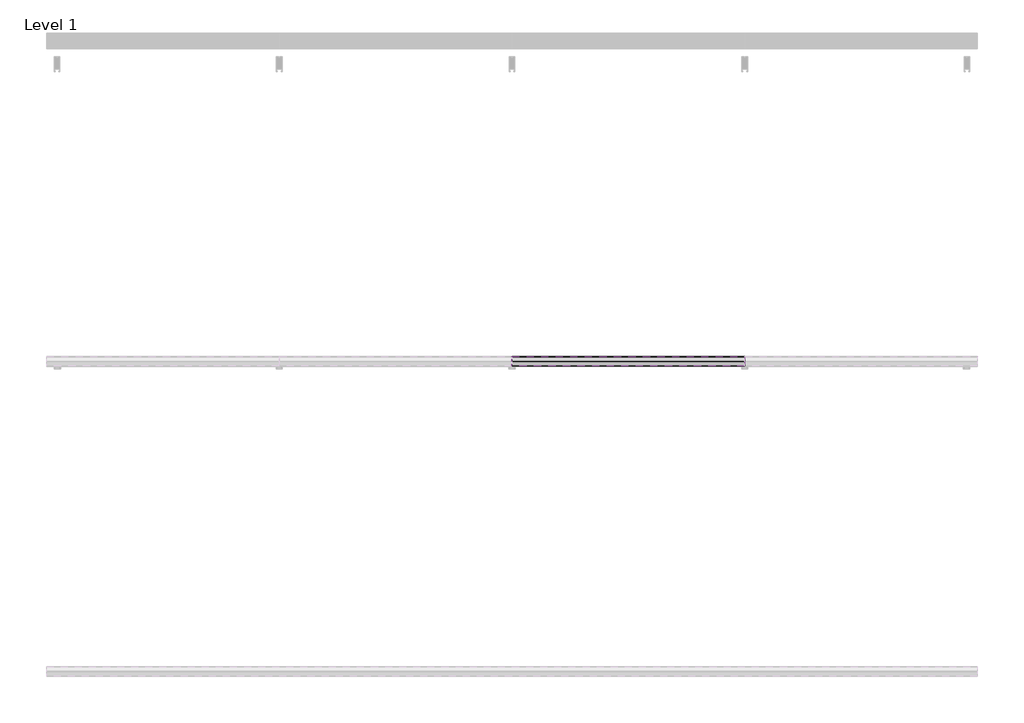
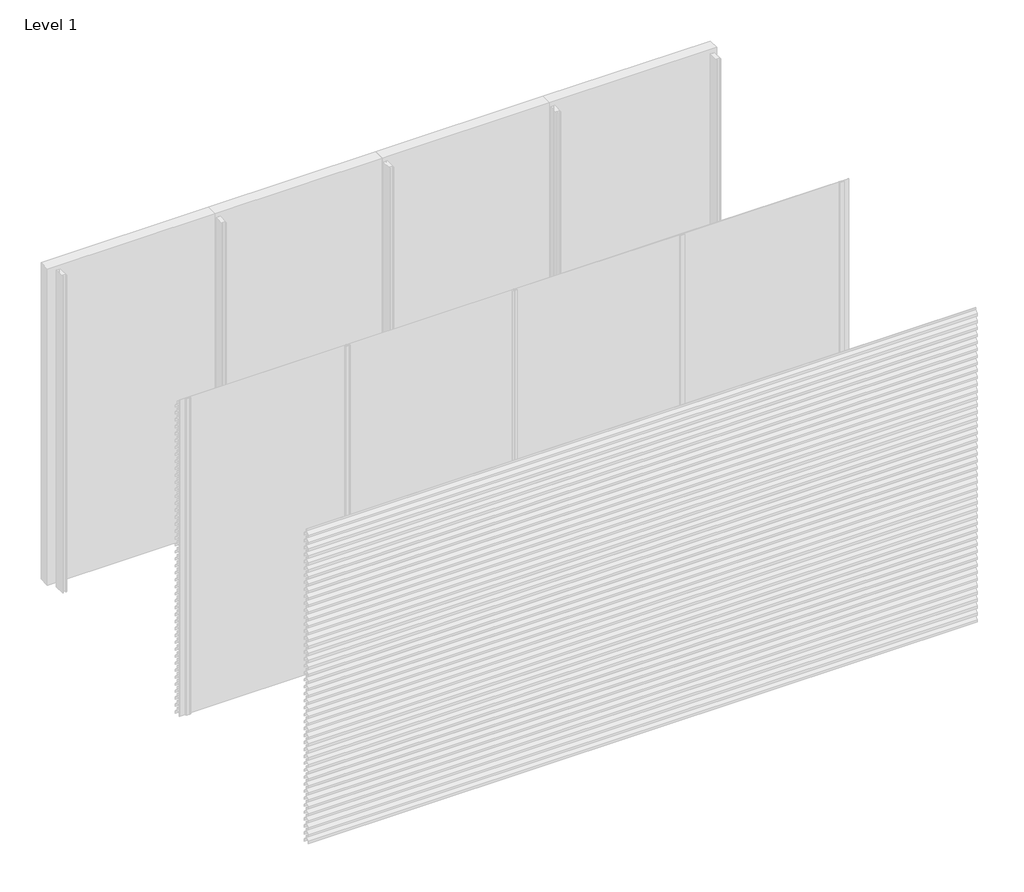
# One storey, part 21 of 35: 69 proxies.
"""IFC4 building model written with IfcOpenShell, lengths in millimetres."""

from ifc_helpers import new_model, si_unit, frame, origin, place, context, project, spatial, polyline, outline, extrude, element, save

model = new_model("IFC4")

# Units and contexts
model_context = context("Model", 3, world=origin())
ifc_project = project(units=[si_unit("LENGTHUNIT", "METRE", prefix="MILLI")], contexts=[model_context])

# Site, building, storey
site = spatial("IfcSite", under=ifc_project)
building = spatial("IfcBuilding", under=site)
storey = spatial("IfcBuildingStorey", under=building, Name="Level 1", Elevation=0.0)

# Proxies
placement = place(None, origin())
element("IfcBuildingElementProxy", 1, Name="Wall Sweeps", at=placement, inside=storey, context=model_context, shape_type="SweptSolid", body=[
    extrude(outline(polyline([(-23936.0, 12.0), (-23936.0, -8.0), (-23937.25, -8.0), (-23937.25, 11.4342979), (-23968.1138939, 44.531772), (-23996.7, 24.4392868), (-23996.7, 5.6629874), (-23998.0, 4.8506572), (-23998.0, 25.1145472), (-23968.537525, 45.823011), (-23968.537525, 66.0), (-23967.1772624, 66.0), (-23967.1772624, 45.4335207), (-23936.0, 12.0)])), frame((1500.0, 0.0, 0.0), z_axis=(1.0, 0.0, 0.0), x_axis=(0.0, 1.0, 0.0)), (0.0, 0.0, 1.0), 1500.0),
])
element("IfcBuildingElementProxy", 2, Name="Wall Sweeps", at=placement, inside=storey, context=model_context, shape_type="SweptSolid", body=[
    extrude(outline(polyline([(-23936.0, 2916.0), (-23936.0, 2896.0), (-23937.25, 2896.0), (-23937.25, 2915.4342979), (-23968.1138939, 2948.531772), (-23996.7, 2928.4392868), (-23996.7, 2909.6629874), (-23998.0, 2908.8506572), (-23998.0, 2929.1145472), (-23968.537525, 2949.823011), (-23968.537525, 2970.0), (-23967.1772624, 2970.0), (-23967.1772624, 2949.4335207), (-23936.0, 2916.0)])), frame((3000.0, 0.0, 0.0), z_axis=(1.0, 0.0, 0.0), x_axis=(0.0, 1.0, 0.0)), (0.0, 0.0, 1.0), 1500.0),
])
element("IfcBuildingElementProxy", 3, Name="Wall Sweeps", at=placement, inside=storey, context=model_context, shape_type="SweptSolid", body=[
    extrude(outline(polyline([(-23936.0, 2850.0), (-23936.0, 2830.0), (-23937.25, 2830.0), (-23937.25, 2849.4342979), (-23968.1138939, 2882.531772), (-23996.7, 2862.4392868), (-23996.7, 2843.6629874), (-23998.0, 2842.8506572), (-23998.0, 2863.1145472), (-23968.537525, 2883.823011), (-23968.537525, 2904.0), (-23967.1772624, 2904.0), (-23967.1772624, 2883.4335207), (-23936.0, 2850.0)])), frame((3000.0, 0.0, 0.0), z_axis=(1.0, 0.0, 0.0), x_axis=(0.0, 1.0, 0.0)), (0.0, 0.0, 1.0), 1500.0),
])
element("IfcBuildingElementProxy", 4, Name="Wall Sweeps", at=placement, inside=storey, context=model_context, shape_type="SweptSolid", body=[
    extrude(outline(polyline([(-23936.0, 2784.0), (-23936.0, 2764.0), (-23937.25, 2764.0), (-23937.25, 2783.4342979), (-23968.1138939, 2816.531772), (-23996.7, 2796.4392868), (-23996.7, 2777.6629874), (-23998.0, 2776.8506572), (-23998.0, 2797.1145472), (-23968.537525, 2817.823011), (-23968.537525, 2838.0), (-23967.1772624, 2838.0), (-23967.1772624, 2817.4335207), (-23936.0, 2784.0)])), frame((3000.0, 0.0, 0.0), z_axis=(1.0, 0.0, 0.0), x_axis=(0.0, 1.0, 0.0)), (0.0, 0.0, 1.0), 1500.0),
])
element("IfcBuildingElementProxy", 5, Name="Wall Sweeps", at=placement, inside=storey, context=model_context, shape_type="SweptSolid", body=[
    extrude(outline(polyline([(-23936.0, 2718.0), (-23936.0, 2698.0), (-23937.25, 2698.0), (-23937.25, 2717.4342979), (-23968.1138939, 2750.531772), (-23996.7, 2730.4392868), (-23996.7, 2711.6629874), (-23998.0, 2710.8506572), (-23998.0, 2731.1145472), (-23968.537525, 2751.823011), (-23968.537525, 2772.0), (-23967.1772624, 2772.0), (-23967.1772624, 2751.4335207), (-23936.0, 2718.0)])), frame((3000.0, 0.0, 0.0), z_axis=(1.0, 0.0, 0.0), x_axis=(0.0, 1.0, 0.0)), (0.0, 0.0, 1.0), 1500.0),
])
element("IfcBuildingElementProxy", 6, Name="Wall Sweeps", at=placement, inside=storey, context=model_context, shape_type="SweptSolid", body=[
    extrude(outline(polyline([(-23936.0, 2652.0), (-23936.0, 2632.0), (-23937.25, 2632.0), (-23937.25, 2651.4342979), (-23968.1138939, 2684.531772), (-23996.7, 2664.4392868), (-23996.7, 2645.6629874), (-23998.0, 2644.8506572), (-23998.0, 2665.1145472), (-23968.537525, 2685.823011), (-23968.537525, 2706.0), (-23967.1772624, 2706.0), (-23967.1772624, 2685.4335207), (-23936.0, 2652.0)])), frame((3000.0, 0.0, 0.0), z_axis=(1.0, 0.0, 0.0), x_axis=(0.0, 1.0, 0.0)), (0.0, 0.0, 1.0), 1500.0),
])
element("IfcBuildingElementProxy", 7, Name="Wall Sweeps", at=placement, inside=storey, context=model_context, shape_type="SweptSolid", body=[
    extrude(outline(polyline([(-23936.0, 2586.0), (-23936.0, 2566.0), (-23937.25, 2566.0), (-23937.25, 2585.4342979), (-23968.1138939, 2618.531772), (-23996.7, 2598.4392868), (-23996.7, 2579.6629874), (-23998.0, 2578.8506572), (-23998.0, 2599.1145472), (-23968.537525, 2619.823011), (-23968.537525, 2640.0), (-23967.1772624, 2640.0), (-23967.1772624, 2619.4335207), (-23936.0, 2586.0)])), frame((3000.0, 0.0, 0.0), z_axis=(1.0, 0.0, 0.0), x_axis=(0.0, 1.0, 0.0)), (0.0, 0.0, 1.0), 1500.0),
])
element("IfcBuildingElementProxy", 8, Name="Wall Sweeps", at=placement, inside=storey, context=model_context, shape_type="SweptSolid", body=[
    extrude(outline(polyline([(-23936.0, 2520.0), (-23936.0, 2500.0), (-23937.25, 2500.0), (-23937.25, 2519.4342979), (-23968.1138939, 2552.531772), (-23996.7, 2532.4392868), (-23996.7, 2513.6629874), (-23998.0, 2512.8506572), (-23998.0, 2533.1145472), (-23968.537525, 2553.823011), (-23968.537525, 2574.0), (-23967.1772624, 2574.0), (-23967.1772624, 2553.4335207), (-23936.0, 2520.0)])), frame((3000.0, 0.0, 0.0), z_axis=(1.0, 0.0, 0.0), x_axis=(0.0, 1.0, 0.0)), (0.0, 0.0, 1.0), 1500.0),
])
element("IfcBuildingElementProxy", 9, Name="Wall Sweeps", at=placement, inside=storey, context=model_context, shape_type="SweptSolid", body=[
    extrude(outline(polyline([(-23936.0, 2454.0), (-23936.0, 2434.0), (-23937.25, 2434.0), (-23937.25, 2453.4342979), (-23968.1138939, 2486.531772), (-23996.7, 2466.4392868), (-23996.7, 2447.6629874), (-23998.0, 2446.8506572), (-23998.0, 2467.1145472), (-23968.537525, 2487.823011), (-23968.537525, 2508.0), (-23967.1772624, 2508.0), (-23967.1772624, 2487.4335207), (-23936.0, 2454.0)])), frame((3000.0, 0.0, 0.0), z_axis=(1.0, 0.0, 0.0), x_axis=(0.0, 1.0, 0.0)), (0.0, 0.0, 1.0), 1500.0),
])
element("IfcBuildingElementProxy", 10, Name="Wall Sweeps", at=placement, inside=storey, context=model_context, shape_type="SweptSolid", body=[
    extrude(outline(polyline([(-23936.0, 2388.0), (-23936.0, 2368.0), (-23937.25, 2368.0), (-23937.25, 2387.4342979), (-23968.1138939, 2420.531772), (-23996.7, 2400.4392868), (-23996.7, 2381.6629874), (-23998.0, 2380.8506572), (-23998.0, 2401.1145472), (-23968.537525, 2421.823011), (-23968.537525, 2442.0), (-23967.1772624, 2442.0), (-23967.1772624, 2421.4335207), (-23936.0, 2388.0)])), frame((3000.0, 0.0, 0.0), z_axis=(1.0, 0.0, 0.0), x_axis=(0.0, 1.0, 0.0)), (0.0, 0.0, 1.0), 1500.0),
])
element("IfcBuildingElementProxy", 11, Name="Wall Sweeps", at=placement, inside=storey, context=model_context, shape_type="SweptSolid", body=[
    extrude(outline(polyline([(-23936.0, 2322.0), (-23936.0, 2302.0), (-23937.25, 2302.0), (-23937.25, 2321.4342979), (-23968.1138939, 2354.531772), (-23996.7, 2334.4392868), (-23996.7, 2315.6629874), (-23998.0, 2314.8506572), (-23998.0, 2335.1145472), (-23968.537525, 2355.823011), (-23968.537525, 2376.0), (-23967.1772624, 2376.0), (-23967.1772624, 2355.4335207), (-23936.0, 2322.0)])), frame((3000.0, 0.0, 0.0), z_axis=(1.0, 0.0, 0.0), x_axis=(0.0, 1.0, 0.0)), (0.0, 0.0, 1.0), 1500.0),
])
element("IfcBuildingElementProxy", 12, Name="Wall Sweeps", at=placement, inside=storey, context=model_context, shape_type="SweptSolid", body=[
    extrude(outline(polyline([(-23936.0, 2256.0), (-23936.0, 2236.0), (-23937.25, 2236.0), (-23937.25, 2255.4342979), (-23968.1138939, 2288.531772), (-23996.7, 2268.4392868), (-23996.7, 2249.6629874), (-23998.0, 2248.8506572), (-23998.0, 2269.1145472), (-23968.537525, 2289.823011), (-23968.537525, 2310.0), (-23967.1772624, 2310.0), (-23967.1772624, 2289.4335207), (-23936.0, 2256.0)])), frame((3000.0, 0.0, 0.0), z_axis=(1.0, 0.0, 0.0), x_axis=(0.0, 1.0, 0.0)), (0.0, 0.0, 1.0), 1500.0),
])
element("IfcBuildingElementProxy", 13, Name="Wall Sweeps", at=placement, inside=storey, context=model_context, shape_type="SweptSolid", body=[
    extrude(outline(polyline([(-23936.0, 2190.0), (-23936.0, 2170.0), (-23937.25, 2170.0), (-23937.25, 2189.4342979), (-23968.1138939, 2222.531772), (-23996.7, 2202.4392868), (-23996.7, 2183.6629874), (-23998.0, 2182.8506572), (-23998.0, 2203.1145472), (-23968.537525, 2223.823011), (-23968.537525, 2244.0), (-23967.1772624, 2244.0), (-23967.1772624, 2223.4335207), (-23936.0, 2190.0)])), frame((3000.0, 0.0, 0.0), z_axis=(1.0, 0.0, 0.0), x_axis=(0.0, 1.0, 0.0)), (0.0, 0.0, 1.0), 1500.0),
])
element("IfcBuildingElementProxy", 14, Name="Wall Sweeps", at=placement, inside=storey, context=model_context, shape_type="SweptSolid", body=[
    extrude(outline(polyline([(-23936.0, 2124.0), (-23936.0, 2104.0), (-23937.25, 2104.0), (-23937.25, 2123.4342979), (-23968.1138939, 2156.531772), (-23996.7, 2136.4392868), (-23996.7, 2117.6629874), (-23998.0, 2116.8506572), (-23998.0, 2137.1145472), (-23968.537525, 2157.823011), (-23968.537525, 2178.0), (-23967.1772624, 2178.0), (-23967.1772624, 2157.4335207), (-23936.0, 2124.0)])), frame((3000.0, 0.0, 0.0), z_axis=(1.0, 0.0, 0.0), x_axis=(0.0, 1.0, 0.0)), (0.0, 0.0, 1.0), 1500.0),
])
element("IfcBuildingElementProxy", 15, Name="Wall Sweeps", at=placement, inside=storey, context=model_context, shape_type="SweptSolid", body=[
    extrude(outline(polyline([(-23936.0, 2058.0), (-23936.0, 2038.0), (-23937.25, 2038.0), (-23937.25, 2057.4342979), (-23968.1138939, 2090.531772), (-23996.7, 2070.4392868), (-23996.7, 2051.6629874), (-23998.0, 2050.8506572), (-23998.0, 2071.1145472), (-23968.537525, 2091.823011), (-23968.537525, 2112.0), (-23967.1772624, 2112.0), (-23967.1772624, 2091.4335207), (-23936.0, 2058.0)])), frame((3000.0, 0.0, 0.0), z_axis=(1.0, 0.0, 0.0), x_axis=(0.0, 1.0, 0.0)), (0.0, 0.0, 1.0), 1500.0),
])
element("IfcBuildingElementProxy", 16, Name="Wall Sweeps", at=placement, inside=storey, context=model_context, shape_type="SweptSolid", body=[
    extrude(outline(polyline([(-23936.0, 1992.0), (-23936.0, 1972.0), (-23937.25, 1972.0), (-23937.25, 1991.4342979), (-23968.1138939, 2024.531772), (-23996.7, 2004.4392868), (-23996.7, 1985.6629874), (-23998.0, 1984.8506572), (-23998.0, 2005.1145472), (-23968.537525, 2025.823011), (-23968.537525, 2046.0), (-23967.1772624, 2046.0), (-23967.1772624, 2025.4335207), (-23936.0, 1992.0)])), frame((3000.0, 0.0, 0.0), z_axis=(1.0, 0.0, 0.0), x_axis=(0.0, 1.0, 0.0)), (0.0, 0.0, 1.0), 1500.0),
])
element("IfcBuildingElementProxy", 17, Name="Wall Sweeps", at=placement, inside=storey, context=model_context, shape_type="SweptSolid", body=[
    extrude(outline(polyline([(-23936.0, 1926.0), (-23936.0, 1906.0), (-23937.25, 1906.0), (-23937.25, 1925.4342979), (-23968.1138939, 1958.531772), (-23996.7, 1938.4392868), (-23996.7, 1919.6629874), (-23998.0, 1918.8506572), (-23998.0, 1939.1145472), (-23968.537525, 1959.823011), (-23968.537525, 1980.0), (-23967.1772624, 1980.0), (-23967.1772624, 1959.4335207), (-23936.0, 1926.0)])), frame((3000.0, 0.0, 0.0), z_axis=(1.0, 0.0, 0.0), x_axis=(0.0, 1.0, 0.0)), (0.0, 0.0, 1.0), 1500.0),
])
element("IfcBuildingElementProxy", 18, Name="Wall Sweeps", at=placement, inside=storey, context=model_context, shape_type="SweptSolid", body=[
    extrude(outline(polyline([(-23936.0, 1860.0), (-23936.0, 1840.0), (-23937.25, 1840.0), (-23937.25, 1859.4342979), (-23968.1138939, 1892.531772), (-23996.7, 1872.4392868), (-23996.7, 1853.6629874), (-23998.0, 1852.8506572), (-23998.0, 1873.1145472), (-23968.537525, 1893.823011), (-23968.537525, 1914.0), (-23967.1772624, 1914.0), (-23967.1772624, 1893.4335207), (-23936.0, 1860.0)])), frame((3000.0, 0.0, 0.0), z_axis=(1.0, 0.0, 0.0), x_axis=(0.0, 1.0, 0.0)), (0.0, 0.0, 1.0), 1500.0),
])
element("IfcBuildingElementProxy", 19, Name="Wall Sweeps", at=placement, inside=storey, context=model_context, shape_type="SweptSolid", body=[
    extrude(outline(polyline([(-23936.0, 1794.0), (-23936.0, 1774.0), (-23937.25, 1774.0), (-23937.25, 1793.4342979), (-23968.1138939, 1826.531772), (-23996.7, 1806.4392868), (-23996.7, 1787.6629874), (-23998.0, 1786.8506572), (-23998.0, 1807.1145472), (-23968.537525, 1827.823011), (-23968.537525, 1848.0), (-23967.1772624, 1848.0), (-23967.1772624, 1827.4335207), (-23936.0, 1794.0)])), frame((3000.0, 0.0, 0.0), z_axis=(1.0, 0.0, 0.0), x_axis=(0.0, 1.0, 0.0)), (0.0, 0.0, 1.0), 1500.0),
])
element("IfcBuildingElementProxy", 20, Name="Wall Sweeps", at=placement, inside=storey, context=model_context, shape_type="SweptSolid", body=[
    extrude(outline(polyline([(-23936.0, 1728.0), (-23936.0, 1708.0), (-23937.25, 1708.0), (-23937.25, 1727.4342979), (-23968.1138939, 1760.531772), (-23996.7, 1740.4392868), (-23996.7, 1721.6629874), (-23998.0, 1720.8506572), (-23998.0, 1741.1145472), (-23968.537525, 1761.823011), (-23968.537525, 1782.0), (-23967.1772624, 1782.0), (-23967.1772624, 1761.4335207), (-23936.0, 1728.0)])), frame((3000.0, 0.0, 0.0), z_axis=(1.0, 0.0, 0.0), x_axis=(0.0, 1.0, 0.0)), (0.0, 0.0, 1.0), 1500.0),
])
element("IfcBuildingElementProxy", 21, Name="Wall Sweeps", at=placement, inside=storey, context=model_context, shape_type="SweptSolid", body=[
    extrude(outline(polyline([(-23936.0, 1662.0), (-23936.0, 1642.0), (-23937.25, 1642.0), (-23937.25, 1661.4342979), (-23968.1138939, 1694.531772), (-23996.7, 1674.4392868), (-23996.7, 1655.6629874), (-23998.0, 1654.8506572), (-23998.0, 1675.1145472), (-23968.537525, 1695.823011), (-23968.537525, 1716.0), (-23967.1772624, 1716.0), (-23967.1772624, 1695.4335207), (-23936.0, 1662.0)])), frame((3000.0, 0.0, 0.0), z_axis=(1.0, 0.0, 0.0), x_axis=(0.0, 1.0, 0.0)), (0.0, 0.0, 1.0), 1500.0),
])
element("IfcBuildingElementProxy", 22, Name="Wall Sweeps", at=placement, inside=storey, context=model_context, shape_type="SweptSolid", body=[
    extrude(outline(polyline([(-23936.0, 1596.0), (-23936.0, 1576.0), (-23937.25, 1576.0), (-23937.25, 1595.4342979), (-23968.1138939, 1628.531772), (-23996.7, 1608.4392868), (-23996.7, 1589.6629874), (-23998.0, 1588.8506572), (-23998.0, 1609.1145472), (-23968.537525, 1629.823011), (-23968.537525, 1650.0), (-23967.1772624, 1650.0), (-23967.1772624, 1629.4335207), (-23936.0, 1596.0)])), frame((3000.0, 0.0, 0.0), z_axis=(1.0, 0.0, 0.0), x_axis=(0.0, 1.0, 0.0)), (0.0, 0.0, 1.0), 1500.0),
])
element("IfcBuildingElementProxy", 23, Name="Wall Sweeps", at=placement, inside=storey, context=model_context, shape_type="SweptSolid", body=[
    extrude(outline(polyline([(-23936.0, 1530.0), (-23936.0, 1510.0), (-23937.25, 1510.0), (-23937.25, 1529.4342979), (-23968.1138939, 1562.531772), (-23996.7, 1542.4392868), (-23996.7, 1523.6629874), (-23998.0, 1522.8506572), (-23998.0, 1543.1145472), (-23968.537525, 1563.823011), (-23968.537525, 1584.0), (-23967.1772624, 1584.0), (-23967.1772624, 1563.4335207), (-23936.0, 1530.0)])), frame((3000.0, 0.0, 0.0), z_axis=(1.0, 0.0, 0.0), x_axis=(0.0, 1.0, 0.0)), (0.0, 0.0, 1.0), 1500.0),
])
element("IfcBuildingElementProxy", 24, Name="Wall Sweeps", at=placement, inside=storey, context=model_context, shape_type="SweptSolid", body=[
    extrude(outline(polyline([(-23936.0, 1464.0), (-23936.0, 1444.0), (-23937.25, 1444.0), (-23937.25, 1463.4342979), (-23968.1138939, 1496.531772), (-23996.7, 1476.4392868), (-23996.7, 1457.6629874), (-23998.0, 1456.8506572), (-23998.0, 1477.1145472), (-23968.537525, 1497.823011), (-23968.537525, 1518.0), (-23967.1772624, 1518.0), (-23967.1772624, 1497.4335207), (-23936.0, 1464.0)])), frame((3000.0, 0.0, 0.0), z_axis=(1.0, 0.0, 0.0), x_axis=(0.0, 1.0, 0.0)), (0.0, 0.0, 1.0), 1500.0),
])
element("IfcBuildingElementProxy", 25, Name="Wall Sweeps", at=placement, inside=storey, context=model_context, shape_type="SweptSolid", body=[
    extrude(outline(polyline([(-23936.0, 1398.0), (-23936.0, 1378.0), (-23937.25, 1378.0), (-23937.25, 1397.4342979), (-23968.1138939, 1430.531772), (-23996.7, 1410.4392868), (-23996.7, 1391.6629874), (-23998.0, 1390.8506572), (-23998.0, 1411.1145472), (-23968.537525, 1431.823011), (-23968.537525, 1452.0), (-23967.1772624, 1452.0), (-23967.1772624, 1431.4335207), (-23936.0, 1398.0)])), frame((3000.0, 0.0, 0.0), z_axis=(1.0, 0.0, 0.0), x_axis=(0.0, 1.0, 0.0)), (0.0, 0.0, 1.0), 1500.0),
])
element("IfcBuildingElementProxy", 26, Name="Wall Sweeps", at=placement, inside=storey, context=model_context, shape_type="SweptSolid", body=[
    extrude(outline(polyline([(-23936.0, 1332.0), (-23936.0, 1312.0), (-23937.25, 1312.0), (-23937.25, 1331.4342979), (-23968.1138939, 1364.531772), (-23996.7, 1344.4392868), (-23996.7, 1325.6629874), (-23998.0, 1324.8506572), (-23998.0, 1345.1145472), (-23968.537525, 1365.823011), (-23968.537525, 1386.0), (-23967.1772624, 1386.0), (-23967.1772624, 1365.4335207), (-23936.0, 1332.0)])), frame((3000.0, 0.0, 0.0), z_axis=(1.0, 0.0, 0.0), x_axis=(0.0, 1.0, 0.0)), (0.0, 0.0, 1.0), 1500.0),
])
element("IfcBuildingElementProxy", 27, Name="Wall Sweeps", at=placement, inside=storey, context=model_context, shape_type="SweptSolid", body=[
    extrude(outline(polyline([(-23936.0, 1266.0), (-23936.0, 1246.0), (-23937.25, 1246.0), (-23937.25, 1265.4342979), (-23968.1138939, 1298.531772), (-23996.7, 1278.4392868), (-23996.7, 1259.6629874), (-23998.0, 1258.8506572), (-23998.0, 1279.1145472), (-23968.537525, 1299.823011), (-23968.537525, 1320.0), (-23967.1772624, 1320.0), (-23967.1772624, 1299.4335207), (-23936.0, 1266.0)])), frame((3000.0, 0.0, 0.0), z_axis=(1.0, 0.0, 0.0), x_axis=(0.0, 1.0, 0.0)), (0.0, 0.0, 1.0), 1500.0),
])
element("IfcBuildingElementProxy", 28, Name="Wall Sweeps", at=placement, inside=storey, context=model_context, shape_type="SweptSolid", body=[
    extrude(outline(polyline([(-23936.0, 1200.0), (-23936.0, 1180.0), (-23937.25, 1180.0), (-23937.25, 1199.4342979), (-23968.1138939, 1232.531772), (-23996.7, 1212.4392868), (-23996.7, 1193.6629874), (-23998.0, 1192.8506572), (-23998.0, 1213.1145472), (-23968.537525, 1233.823011), (-23968.537525, 1254.0), (-23967.1772624, 1254.0), (-23967.1772624, 1233.4335207), (-23936.0, 1200.0)])), frame((3000.0, 0.0, 0.0), z_axis=(1.0, 0.0, 0.0), x_axis=(0.0, 1.0, 0.0)), (0.0, 0.0, 1.0), 1500.0),
])
element("IfcBuildingElementProxy", 29, Name="Wall Sweeps", at=placement, inside=storey, context=model_context, shape_type="SweptSolid", body=[
    extrude(outline(polyline([(-23936.0, 1134.0), (-23936.0, 1114.0), (-23937.25, 1114.0), (-23937.25, 1133.4342979), (-23968.1138939, 1166.531772), (-23996.7, 1146.4392868), (-23996.7, 1127.6629874), (-23998.0, 1126.8506572), (-23998.0, 1147.1145472), (-23968.537525, 1167.823011), (-23968.537525, 1188.0), (-23967.1772624, 1188.0), (-23967.1772624, 1167.4335207), (-23936.0, 1134.0)])), frame((3000.0, 0.0, 0.0), z_axis=(1.0, 0.0, 0.0), x_axis=(0.0, 1.0, 0.0)), (0.0, 0.0, 1.0), 1500.0),
])
element("IfcBuildingElementProxy", 30, Name="Wall Sweeps", at=placement, inside=storey, context=model_context, shape_type="SweptSolid", body=[
    extrude(outline(polyline([(-23936.0, 1068.0), (-23936.0, 1048.0), (-23937.25, 1048.0), (-23937.25, 1067.4342979), (-23968.1138939, 1100.531772), (-23996.7, 1080.4392868), (-23996.7, 1061.6629874), (-23998.0, 1060.8506572), (-23998.0, 1081.1145472), (-23968.537525, 1101.823011), (-23968.537525, 1122.0), (-23967.1772624, 1122.0), (-23967.1772624, 1101.4335207), (-23936.0, 1068.0)])), frame((3000.0, 0.0, 0.0), z_axis=(1.0, 0.0, 0.0), x_axis=(0.0, 1.0, 0.0)), (0.0, 0.0, 1.0), 1500.0),
])
element("IfcBuildingElementProxy", 31, Name="Wall Sweeps", at=placement, inside=storey, context=model_context, shape_type="SweptSolid", body=[
    extrude(outline(polyline([(-23936.0, 1002.0), (-23936.0, 982.0), (-23937.25, 982.0), (-23937.25, 1001.4342979), (-23968.1138939, 1034.531772), (-23996.7, 1014.4392868), (-23996.7, 995.6629874), (-23998.0, 994.8506572), (-23998.0, 1015.1145472), (-23968.537525, 1035.823011), (-23968.537525, 1056.0), (-23967.1772624, 1056.0), (-23967.1772624, 1035.4335207), (-23936.0, 1002.0)])), frame((3000.0, 0.0, 0.0), z_axis=(1.0, 0.0, 0.0), x_axis=(0.0, 1.0, 0.0)), (0.0, 0.0, 1.0), 1500.0),
])
element("IfcBuildingElementProxy", 32, Name="Wall Sweeps", at=placement, inside=storey, context=model_context, shape_type="SweptSolid", body=[
    extrude(outline(polyline([(-23936.0, 936.0), (-23936.0, 916.0), (-23937.25, 916.0), (-23937.25, 935.4342979), (-23968.1138939, 968.531772), (-23996.7, 948.4392868), (-23996.7, 929.6629874), (-23998.0, 928.8506572), (-23998.0, 949.1145472), (-23968.537525, 969.823011), (-23968.537525, 990.0), (-23967.1772624, 990.0), (-23967.1772624, 969.4335207), (-23936.0, 936.0)])), frame((3000.0, 0.0, 0.0), z_axis=(1.0, 0.0, 0.0), x_axis=(0.0, 1.0, 0.0)), (0.0, 0.0, 1.0), 1500.0),
])
element("IfcBuildingElementProxy", 33, Name="Wall Sweeps", at=placement, inside=storey, context=model_context, shape_type="SweptSolid", body=[
    extrude(outline(polyline([(-23936.0, 870.0), (-23936.0, 850.0), (-23937.25, 850.0), (-23937.25, 869.4342979), (-23968.1138939, 902.531772), (-23996.7, 882.4392868), (-23996.7, 863.6629874), (-23998.0, 862.8506572), (-23998.0, 883.1145472), (-23968.537525, 903.823011), (-23968.537525, 924.0), (-23967.1772624, 924.0), (-23967.1772624, 903.4335207), (-23936.0, 870.0)])), frame((3000.0, 0.0, 0.0), z_axis=(1.0, 0.0, 0.0), x_axis=(0.0, 1.0, 0.0)), (0.0, 0.0, 1.0), 1500.0),
])
element("IfcBuildingElementProxy", 34, Name="Wall Sweeps", at=placement, inside=storey, context=model_context, shape_type="SweptSolid", body=[
    extrude(outline(polyline([(-23936.0, 804.0), (-23936.0, 784.0), (-23937.25, 784.0), (-23937.25, 803.4342979), (-23968.1138939, 836.531772), (-23996.7, 816.4392868), (-23996.7, 797.6629874), (-23998.0, 796.8506572), (-23998.0, 817.1145472), (-23968.537525, 837.823011), (-23968.537525, 858.0), (-23967.1772624, 858.0), (-23967.1772624, 837.4335207), (-23936.0, 804.0)])), frame((3000.0, 0.0, 0.0), z_axis=(1.0, 0.0, 0.0), x_axis=(0.0, 1.0, 0.0)), (0.0, 0.0, 1.0), 1500.0),
])
element("IfcBuildingElementProxy", 35, Name="Wall Sweeps", at=placement, inside=storey, context=model_context, shape_type="SweptSolid", body=[
    extrude(outline(polyline([(-23936.0, 738.0), (-23936.0, 718.0), (-23937.25, 718.0), (-23937.25, 737.4342979), (-23968.1138939, 770.531772), (-23996.7, 750.4392868), (-23996.7, 731.6629874), (-23998.0, 730.8506572), (-23998.0, 751.1145472), (-23968.537525, 771.823011), (-23968.537525, 792.0), (-23967.1772624, 792.0), (-23967.1772624, 771.4335207), (-23936.0, 738.0)])), frame((3000.0, 0.0, 0.0), z_axis=(1.0, 0.0, 0.0), x_axis=(0.0, 1.0, 0.0)), (0.0, 0.0, 1.0), 1500.0),
])
element("IfcBuildingElementProxy", 36, Name="Wall Sweeps", at=placement, inside=storey, context=model_context, shape_type="SweptSolid", body=[
    extrude(outline(polyline([(-23936.0, 672.0), (-23936.0, 652.0), (-23937.25, 652.0), (-23937.25, 671.4342979), (-23968.1138939, 704.531772), (-23996.7, 684.4392868), (-23996.7, 665.6629874), (-23998.0, 664.8506572), (-23998.0, 685.1145472), (-23968.537525, 705.823011), (-23968.537525, 726.0), (-23967.1772624, 726.0), (-23967.1772624, 705.4335207), (-23936.0, 672.0)])), frame((3000.0, 0.0, 0.0), z_axis=(1.0, 0.0, 0.0), x_axis=(0.0, 1.0, 0.0)), (0.0, 0.0, 1.0), 1500.0),
])
element("IfcBuildingElementProxy", 37, Name="Wall Sweeps", at=placement, inside=storey, context=model_context, shape_type="SweptSolid", body=[
    extrude(outline(polyline([(-23936.0, 606.0), (-23936.0, 586.0), (-23937.25, 586.0), (-23937.25, 605.4342979), (-23968.1138939, 638.531772), (-23996.7, 618.4392868), (-23996.7, 599.6629874), (-23998.0, 598.8506572), (-23998.0, 619.1145472), (-23968.537525, 639.823011), (-23968.537525, 660.0), (-23967.1772624, 660.0), (-23967.1772624, 639.4335207), (-23936.0, 606.0)])), frame((3000.0, 0.0, 0.0), z_axis=(1.0, 0.0, 0.0), x_axis=(0.0, 1.0, 0.0)), (0.0, 0.0, 1.0), 1500.0),
])
element("IfcBuildingElementProxy", 38, Name="Wall Sweeps", at=placement, inside=storey, context=model_context, shape_type="SweptSolid", body=[
    extrude(outline(polyline([(-23936.0, 540.0), (-23936.0, 520.0), (-23937.25, 520.0), (-23937.25, 539.4342979), (-23968.1138939, 572.531772), (-23996.7, 552.4392868), (-23996.7, 533.6629874), (-23998.0, 532.8506572), (-23998.0, 553.1145472), (-23968.537525, 573.823011), (-23968.537525, 594.0), (-23967.1772624, 594.0), (-23967.1772624, 573.4335207), (-23936.0, 540.0)])), frame((3000.0, 0.0, 0.0), z_axis=(1.0, 0.0, 0.0), x_axis=(0.0, 1.0, 0.0)), (0.0, 0.0, 1.0), 1500.0),
])
element("IfcBuildingElementProxy", 39, Name="Wall Sweeps", at=placement, inside=storey, context=model_context, shape_type="SweptSolid", body=[
    extrude(outline(polyline([(-23936.0, 474.0), (-23936.0, 454.0), (-23937.25, 454.0), (-23937.25, 473.4342979), (-23968.1138939, 506.531772), (-23996.7, 486.4392868), (-23996.7, 467.6629874), (-23998.0, 466.8506572), (-23998.0, 487.1145472), (-23968.537525, 507.823011), (-23968.537525, 528.0), (-23967.1772624, 528.0), (-23967.1772624, 507.4335207), (-23936.0, 474.0)])), frame((3000.0, 0.0, 0.0), z_axis=(1.0, 0.0, 0.0), x_axis=(0.0, 1.0, 0.0)), (0.0, 0.0, 1.0), 1500.0),
])
element("IfcBuildingElementProxy", 40, Name="Wall Sweeps", at=placement, inside=storey, context=model_context, shape_type="SweptSolid", body=[
    extrude(outline(polyline([(-23936.0, 408.0), (-23936.0, 388.0), (-23937.25, 388.0), (-23937.25, 407.4342979), (-23968.1138939, 440.531772), (-23996.7, 420.4392868), (-23996.7, 401.6629874), (-23998.0, 400.8506572), (-23998.0, 421.1145472), (-23968.537525, 441.823011), (-23968.537525, 462.0), (-23967.1772624, 462.0), (-23967.1772624, 441.4335207), (-23936.0, 408.0)])), frame((3000.0, 0.0, 0.0), z_axis=(1.0, 0.0, 0.0), x_axis=(0.0, 1.0, 0.0)), (0.0, 0.0, 1.0), 1500.0),
])
element("IfcBuildingElementProxy", 41, Name="Wall Sweeps", at=placement, inside=storey, context=model_context, shape_type="SweptSolid", body=[
    extrude(outline(polyline([(-23936.0, 342.0), (-23936.0, 322.0), (-23937.25, 322.0), (-23937.25, 341.4342979), (-23968.1138939, 374.531772), (-23996.7, 354.4392868), (-23996.7, 335.6629874), (-23998.0, 334.8506572), (-23998.0, 355.1145472), (-23968.537525, 375.823011), (-23968.537525, 396.0), (-23967.1772624, 396.0), (-23967.1772624, 375.4335207), (-23936.0, 342.0)])), frame((3000.0, 0.0, 0.0), z_axis=(1.0, 0.0, 0.0), x_axis=(0.0, 1.0, 0.0)), (0.0, 0.0, 1.0), 1500.0),
])
element("IfcBuildingElementProxy", 42, Name="Wall Sweeps", at=placement, inside=storey, context=model_context, shape_type="SweptSolid", body=[
    extrude(outline(polyline([(-23936.0, 276.0), (-23936.0, 256.0), (-23937.25, 256.0), (-23937.25, 275.4342979), (-23968.1138939, 308.531772), (-23996.7, 288.4392868), (-23996.7, 269.6629874), (-23998.0, 268.8506572), (-23998.0, 289.1145472), (-23968.537525, 309.823011), (-23968.537525, 330.0), (-23967.1772624, 330.0), (-23967.1772624, 309.4335207), (-23936.0, 276.0)])), frame((3000.0, 0.0, 0.0), z_axis=(1.0, 0.0, 0.0), x_axis=(0.0, 1.0, 0.0)), (0.0, 0.0, 1.0), 1500.0),
])
element("IfcBuildingElementProxy", 43, Name="Wall Sweeps", at=placement, inside=storey, context=model_context, shape_type="SweptSolid", body=[
    extrude(outline(polyline([(-23936.0, 210.0), (-23936.0, 190.0), (-23937.25, 190.0), (-23937.25, 209.4342979), (-23968.1138939, 242.531772), (-23996.7, 222.4392868), (-23996.7, 203.6629874), (-23998.0, 202.8506572), (-23998.0, 223.1145472), (-23968.537525, 243.823011), (-23968.537525, 264.0), (-23967.1772624, 264.0), (-23967.1772624, 243.4335207), (-23936.0, 210.0)])), frame((3000.0, 0.0, 0.0), z_axis=(1.0, 0.0, 0.0), x_axis=(0.0, 1.0, 0.0)), (0.0, 0.0, 1.0), 1500.0),
])
element("IfcBuildingElementProxy", 44, Name="Wall Sweeps", at=placement, inside=storey, context=model_context, shape_type="SweptSolid", body=[
    extrude(outline(polyline([(-23936.0, 144.0), (-23936.0, 124.0), (-23937.25, 124.0), (-23937.25, 143.4342979), (-23968.1138939, 176.531772), (-23996.7, 156.4392868), (-23996.7, 137.6629874), (-23998.0, 136.8506572), (-23998.0, 157.1145472), (-23968.537525, 177.823011), (-23968.537525, 198.0), (-23967.1772624, 198.0), (-23967.1772624, 177.4335207), (-23936.0, 144.0)])), frame((3000.0, 0.0, 0.0), z_axis=(1.0, 0.0, 0.0), x_axis=(0.0, 1.0, 0.0)), (0.0, 0.0, 1.0), 1500.0),
])
element("IfcBuildingElementProxy", 45, Name="Wall Sweeps", at=placement, inside=storey, context=model_context, shape_type="SweptSolid", body=[
    extrude(outline(polyline([(-23936.0, 78.0), (-23936.0, 58.0), (-23937.25, 58.0), (-23937.25, 77.4342979), (-23968.1138939, 110.531772), (-23996.7, 90.4392868), (-23996.7, 71.6629874), (-23998.0, 70.8506572), (-23998.0, 91.1145472), (-23968.537525, 111.823011), (-23968.537525, 132.0), (-23967.1772624, 132.0), (-23967.1772624, 111.4335207), (-23936.0, 78.0)])), frame((3000.0, 0.0, 0.0), z_axis=(1.0, 0.0, 0.0), x_axis=(0.0, 1.0, 0.0)), (0.0, 0.0, 1.0), 1500.0),
])
element("IfcBuildingElementProxy", 46, Name="Wall Sweeps", at=placement, inside=storey, context=model_context, shape_type="SweptSolid", body=[
    extrude(outline(polyline([(-23936.0, 12.0), (-23936.0, -8.0), (-23937.25, -8.0), (-23937.25, 11.4342979), (-23968.1138939, 44.531772), (-23996.7, 24.4392868), (-23996.7, 5.6629874), (-23998.0, 4.8506572), (-23998.0, 25.1145472), (-23968.537525, 45.823011), (-23968.537525, 66.0), (-23967.1772624, 66.0), (-23967.1772624, 45.4335207), (-23936.0, 12.0)])), frame((3000.0, 0.0, 0.0), z_axis=(1.0, 0.0, 0.0), x_axis=(0.0, 1.0, 0.0)), (0.0, 0.0, 1.0), 1500.0),
])
element("IfcBuildingElementProxy", 47, Name="Wall Sweeps", at=placement, inside=storey, context=model_context, shape_type="SweptSolid", body=[
    extrude(outline(polyline([(-23936.0, 2916.0), (-23936.0, 2896.0), (-23937.25, 2896.0), (-23937.25, 2915.4342979), (-23968.1138939, 2948.531772), (-23996.7, 2928.4392868), (-23996.7, 2909.6629874), (-23998.0, 2908.8506572), (-23998.0, 2929.1145472), (-23968.537525, 2949.823011), (-23968.537525, 2970.0), (-23967.1772624, 2970.0), (-23967.1772624, 2949.4335207), (-23936.0, 2916.0)])), frame((4500.0, 0.0, 0.0), z_axis=(1.0, 0.0, 0.0), x_axis=(0.0, 1.0, 0.0)), (0.0, 0.0, 1.0), 1500.0),
])
element("IfcBuildingElementProxy", 48, Name="Wall Sweeps", at=placement, inside=storey, context=model_context, shape_type="SweptSolid", body=[
    extrude(outline(polyline([(-23936.0, 2850.0), (-23936.0, 2830.0), (-23937.25, 2830.0), (-23937.25, 2849.4342979), (-23968.1138939, 2882.531772), (-23996.7, 2862.4392868), (-23996.7, 2843.6629874), (-23998.0, 2842.8506572), (-23998.0, 2863.1145472), (-23968.537525, 2883.823011), (-23968.537525, 2904.0), (-23967.1772624, 2904.0), (-23967.1772624, 2883.4335207), (-23936.0, 2850.0)])), frame((4500.0, 0.0, 0.0), z_axis=(1.0, 0.0, 0.0), x_axis=(0.0, 1.0, 0.0)), (0.0, 0.0, 1.0), 1500.0),
])
element("IfcBuildingElementProxy", 49, Name="Wall Sweeps", at=placement, inside=storey, context=model_context, shape_type="SweptSolid", body=[
    extrude(outline(polyline([(-23936.0, 2784.0), (-23936.0, 2764.0), (-23937.25, 2764.0), (-23937.25, 2783.4342979), (-23968.1138939, 2816.531772), (-23996.7, 2796.4392868), (-23996.7, 2777.6629874), (-23998.0, 2776.8506572), (-23998.0, 2797.1145472), (-23968.537525, 2817.823011), (-23968.537525, 2838.0), (-23967.1772624, 2838.0), (-23967.1772624, 2817.4335207), (-23936.0, 2784.0)])), frame((4500.0, 0.0, 0.0), z_axis=(1.0, 0.0, 0.0), x_axis=(0.0, 1.0, 0.0)), (0.0, 0.0, 1.0), 1500.0),
])
element("IfcBuildingElementProxy", 50, Name="Wall Sweeps", at=placement, inside=storey, context=model_context, shape_type="SweptSolid", body=[
    extrude(outline(polyline([(-23936.0, 2718.0), (-23936.0, 2698.0), (-23937.25, 2698.0), (-23937.25, 2717.4342979), (-23968.1138939, 2750.531772), (-23996.7, 2730.4392868), (-23996.7, 2711.6629874), (-23998.0, 2710.8506572), (-23998.0, 2731.1145472), (-23968.537525, 2751.823011), (-23968.537525, 2772.0), (-23967.1772624, 2772.0), (-23967.1772624, 2751.4335207), (-23936.0, 2718.0)])), frame((4500.0, 0.0, 0.0), z_axis=(1.0, 0.0, 0.0), x_axis=(0.0, 1.0, 0.0)), (0.0, 0.0, 1.0), 1500.0),
])
element("IfcBuildingElementProxy", 51, Name="Wall Sweeps", at=placement, inside=storey, context=model_context, shape_type="SweptSolid", body=[
    extrude(outline(polyline([(-23936.0, 2652.0), (-23936.0, 2632.0), (-23937.25, 2632.0), (-23937.25, 2651.4342979), (-23968.1138939, 2684.531772), (-23996.7, 2664.4392868), (-23996.7, 2645.6629874), (-23998.0, 2644.8506572), (-23998.0, 2665.1145472), (-23968.537525, 2685.823011), (-23968.537525, 2706.0), (-23967.1772624, 2706.0), (-23967.1772624, 2685.4335207), (-23936.0, 2652.0)])), frame((4500.0, 0.0, 0.0), z_axis=(1.0, 0.0, 0.0), x_axis=(0.0, 1.0, 0.0)), (0.0, 0.0, 1.0), 1500.0),
])
element("IfcBuildingElementProxy", 52, Name="Wall Sweeps", at=placement, inside=storey, context=model_context, shape_type="SweptSolid", body=[
    extrude(outline(polyline([(-23936.0, 2586.0), (-23936.0, 2566.0), (-23937.25, 2566.0), (-23937.25, 2585.4342979), (-23968.1138939, 2618.531772), (-23996.7, 2598.4392868), (-23996.7, 2579.6629874), (-23998.0, 2578.8506572), (-23998.0, 2599.1145472), (-23968.537525, 2619.823011), (-23968.537525, 2640.0), (-23967.1772624, 2640.0), (-23967.1772624, 2619.4335207), (-23936.0, 2586.0)])), frame((4500.0, 0.0, 0.0), z_axis=(1.0, 0.0, 0.0), x_axis=(0.0, 1.0, 0.0)), (0.0, 0.0, 1.0), 1500.0),
])
element("IfcBuildingElementProxy", 53, Name="Wall Sweeps", at=placement, inside=storey, context=model_context, shape_type="SweptSolid", body=[
    extrude(outline(polyline([(-23936.0, 2520.0), (-23936.0, 2500.0), (-23937.25, 2500.0), (-23937.25, 2519.4342979), (-23968.1138939, 2552.531772), (-23996.7, 2532.4392868), (-23996.7, 2513.6629874), (-23998.0, 2512.8506572), (-23998.0, 2533.1145472), (-23968.537525, 2553.823011), (-23968.537525, 2574.0), (-23967.1772624, 2574.0), (-23967.1772624, 2553.4335207), (-23936.0, 2520.0)])), frame((4500.0, 0.0, 0.0), z_axis=(1.0, 0.0, 0.0), x_axis=(0.0, 1.0, 0.0)), (0.0, 0.0, 1.0), 1500.0),
])
element("IfcBuildingElementProxy", 54, Name="Wall Sweeps", at=placement, inside=storey, context=model_context, shape_type="SweptSolid", body=[
    extrude(outline(polyline([(-23936.0, 2454.0), (-23936.0, 2434.0), (-23937.25, 2434.0), (-23937.25, 2453.4342979), (-23968.1138939, 2486.531772), (-23996.7, 2466.4392868), (-23996.7, 2447.6629874), (-23998.0, 2446.8506572), (-23998.0, 2467.1145472), (-23968.537525, 2487.823011), (-23968.537525, 2508.0), (-23967.1772624, 2508.0), (-23967.1772624, 2487.4335207), (-23936.0, 2454.0)])), frame((4500.0, 0.0, 0.0), z_axis=(1.0, 0.0, 0.0), x_axis=(0.0, 1.0, 0.0)), (0.0, 0.0, 1.0), 1500.0),
])
element("IfcBuildingElementProxy", 55, Name="Wall Sweeps", at=placement, inside=storey, context=model_context, shape_type="SweptSolid", body=[
    extrude(outline(polyline([(-23936.0, 2388.0), (-23936.0, 2368.0), (-23937.25, 2368.0), (-23937.25, 2387.4342979), (-23968.1138939, 2420.531772), (-23996.7, 2400.4392868), (-23996.7, 2381.6629874), (-23998.0, 2380.8506572), (-23998.0, 2401.1145472), (-23968.537525, 2421.823011), (-23968.537525, 2442.0), (-23967.1772624, 2442.0), (-23967.1772624, 2421.4335207), (-23936.0, 2388.0)])), frame((4500.0, 0.0, 0.0), z_axis=(1.0, 0.0, 0.0), x_axis=(0.0, 1.0, 0.0)), (0.0, 0.0, 1.0), 1500.0),
])
element("IfcBuildingElementProxy", 56, Name="Wall Sweeps", at=placement, inside=storey, context=model_context, shape_type="SweptSolid", body=[
    extrude(outline(polyline([(-23936.0, 2322.0), (-23936.0, 2302.0), (-23937.25, 2302.0), (-23937.25, 2321.4342979), (-23968.1138939, 2354.531772), (-23996.7, 2334.4392868), (-23996.7, 2315.6629874), (-23998.0, 2314.8506572), (-23998.0, 2335.1145472), (-23968.537525, 2355.823011), (-23968.537525, 2376.0), (-23967.1772624, 2376.0), (-23967.1772624, 2355.4335207), (-23936.0, 2322.0)])), frame((4500.0, 0.0, 0.0), z_axis=(1.0, 0.0, 0.0), x_axis=(0.0, 1.0, 0.0)), (0.0, 0.0, 1.0), 1500.0),
])
element("IfcBuildingElementProxy", 57, Name="Wall Sweeps", at=placement, inside=storey, context=model_context, shape_type="SweptSolid", body=[
    extrude(outline(polyline([(-23936.0, 2256.0), (-23936.0, 2236.0), (-23937.25, 2236.0), (-23937.25, 2255.4342979), (-23968.1138939, 2288.531772), (-23996.7, 2268.4392868), (-23996.7, 2249.6629874), (-23998.0, 2248.8506572), (-23998.0, 2269.1145472), (-23968.537525, 2289.823011), (-23968.537525, 2310.0), (-23967.1772624, 2310.0), (-23967.1772624, 2289.4335207), (-23936.0, 2256.0)])), frame((4500.0, 0.0, 0.0), z_axis=(1.0, 0.0, 0.0), x_axis=(0.0, 1.0, 0.0)), (0.0, 0.0, 1.0), 1500.0),
])
element("IfcBuildingElementProxy", 58, Name="Wall Sweeps", at=placement, inside=storey, context=model_context, shape_type="SweptSolid", body=[
    extrude(outline(polyline([(-23936.0, 2190.0), (-23936.0, 2170.0), (-23937.25, 2170.0), (-23937.25, 2189.4342979), (-23968.1138939, 2222.531772), (-23996.7, 2202.4392868), (-23996.7, 2183.6629874), (-23998.0, 2182.8506572), (-23998.0, 2203.1145472), (-23968.537525, 2223.823011), (-23968.537525, 2244.0), (-23967.1772624, 2244.0), (-23967.1772624, 2223.4335207), (-23936.0, 2190.0)])), frame((4500.0, 0.0, 0.0), z_axis=(1.0, 0.0, 0.0), x_axis=(0.0, 1.0, 0.0)), (0.0, 0.0, 1.0), 1500.0),
])
element("IfcBuildingElementProxy", 59, Name="Wall Sweeps", at=placement, inside=storey, context=model_context, shape_type="SweptSolid", body=[
    extrude(outline(polyline([(-23936.0, 2124.0), (-23936.0, 2104.0), (-23937.25, 2104.0), (-23937.25, 2123.4342979), (-23968.1138939, 2156.531772), (-23996.7, 2136.4392868), (-23996.7, 2117.6629874), (-23998.0, 2116.8506572), (-23998.0, 2137.1145472), (-23968.537525, 2157.823011), (-23968.537525, 2178.0), (-23967.1772624, 2178.0), (-23967.1772624, 2157.4335207), (-23936.0, 2124.0)])), frame((4500.0, 0.0, 0.0), z_axis=(1.0, 0.0, 0.0), x_axis=(0.0, 1.0, 0.0)), (0.0, 0.0, 1.0), 1500.0),
])
element("IfcBuildingElementProxy", 60, Name="Wall Sweeps", at=placement, inside=storey, context=model_context, shape_type="SweptSolid", body=[
    extrude(outline(polyline([(-23936.0, 2058.0), (-23936.0, 2038.0), (-23937.25, 2038.0), (-23937.25, 2057.4342979), (-23968.1138939, 2090.531772), (-23996.7, 2070.4392868), (-23996.7, 2051.6629874), (-23998.0, 2050.8506572), (-23998.0, 2071.1145472), (-23968.537525, 2091.823011), (-23968.537525, 2112.0), (-23967.1772624, 2112.0), (-23967.1772624, 2091.4335207), (-23936.0, 2058.0)])), frame((4500.0, 0.0, 0.0), z_axis=(1.0, 0.0, 0.0), x_axis=(0.0, 1.0, 0.0)), (0.0, 0.0, 1.0), 1500.0),
])
element("IfcBuildingElementProxy", 61, Name="Wall Sweeps", at=placement, inside=storey, context=model_context, shape_type="SweptSolid", body=[
    extrude(outline(polyline([(-23936.0, 1992.0), (-23936.0, 1972.0), (-23937.25, 1972.0), (-23937.25, 1991.4342979), (-23968.1138939, 2024.531772), (-23996.7, 2004.4392868), (-23996.7, 1985.6629874), (-23998.0, 1984.8506572), (-23998.0, 2005.1145472), (-23968.537525, 2025.823011), (-23968.537525, 2046.0), (-23967.1772624, 2046.0), (-23967.1772624, 2025.4335207), (-23936.0, 1992.0)])), frame((4500.0, 0.0, 0.0), z_axis=(1.0, 0.0, 0.0), x_axis=(0.0, 1.0, 0.0)), (0.0, 0.0, 1.0), 1500.0),
])
element("IfcBuildingElementProxy", 62, Name="Wall Sweeps", at=placement, inside=storey, context=model_context, shape_type="SweptSolid", body=[
    extrude(outline(polyline([(-23936.0, 1926.0), (-23936.0, 1906.0), (-23937.25, 1906.0), (-23937.25, 1925.4342979), (-23968.1138939, 1958.531772), (-23996.7, 1938.4392868), (-23996.7, 1919.6629874), (-23998.0, 1918.8506572), (-23998.0, 1939.1145472), (-23968.537525, 1959.823011), (-23968.537525, 1980.0), (-23967.1772624, 1980.0), (-23967.1772624, 1959.4335207), (-23936.0, 1926.0)])), frame((4500.0, 0.0, 0.0), z_axis=(1.0, 0.0, 0.0), x_axis=(0.0, 1.0, 0.0)), (0.0, 0.0, 1.0), 1500.0),
])
element("IfcBuildingElementProxy", 63, Name="Wall Sweeps", at=placement, inside=storey, context=model_context, shape_type="SweptSolid", body=[
    extrude(outline(polyline([(-23936.0, 1860.0), (-23936.0, 1840.0), (-23937.25, 1840.0), (-23937.25, 1859.4342979), (-23968.1138939, 1892.531772), (-23996.7, 1872.4392868), (-23996.7, 1853.6629874), (-23998.0, 1852.8506572), (-23998.0, 1873.1145472), (-23968.537525, 1893.823011), (-23968.537525, 1914.0), (-23967.1772624, 1914.0), (-23967.1772624, 1893.4335207), (-23936.0, 1860.0)])), frame((4500.0, 0.0, 0.0), z_axis=(1.0, 0.0, 0.0), x_axis=(0.0, 1.0, 0.0)), (0.0, 0.0, 1.0), 1500.0),
])
element("IfcBuildingElementProxy", 64, Name="Wall Sweeps", at=placement, inside=storey, context=model_context, shape_type="SweptSolid", body=[
    extrude(outline(polyline([(-23936.0, 1794.0), (-23936.0, 1774.0), (-23937.25, 1774.0), (-23937.25, 1793.4342979), (-23968.1138939, 1826.531772), (-23996.7, 1806.4392868), (-23996.7, 1787.6629874), (-23998.0, 1786.8506572), (-23998.0, 1807.1145472), (-23968.537525, 1827.823011), (-23968.537525, 1848.0), (-23967.1772624, 1848.0), (-23967.1772624, 1827.4335207), (-23936.0, 1794.0)])), frame((4500.0, 0.0, 0.0), z_axis=(1.0, 0.0, 0.0), x_axis=(0.0, 1.0, 0.0)), (0.0, 0.0, 1.0), 1500.0),
])
element("IfcBuildingElementProxy", 65, Name="Wall Sweeps", at=placement, inside=storey, context=model_context, shape_type="SweptSolid", body=[
    extrude(outline(polyline([(-23936.0, 1728.0), (-23936.0, 1708.0), (-23937.25, 1708.0), (-23937.25, 1727.4342979), (-23968.1138939, 1760.531772), (-23996.7, 1740.4392868), (-23996.7, 1721.6629874), (-23998.0, 1720.8506572), (-23998.0, 1741.1145472), (-23968.537525, 1761.823011), (-23968.537525, 1782.0), (-23967.1772624, 1782.0), (-23967.1772624, 1761.4335207), (-23936.0, 1728.0)])), frame((4500.0, 0.0, 0.0), z_axis=(1.0, 0.0, 0.0), x_axis=(0.0, 1.0, 0.0)), (0.0, 0.0, 1.0), 1500.0),
])
element("IfcBuildingElementProxy", 66, Name="Wall Sweeps", at=placement, inside=storey, context=model_context, shape_type="SweptSolid", body=[
    extrude(outline(polyline([(-23936.0, 1662.0), (-23936.0, 1642.0), (-23937.25, 1642.0), (-23937.25, 1661.4342979), (-23968.1138939, 1694.531772), (-23996.7, 1674.4392868), (-23996.7, 1655.6629874), (-23998.0, 1654.8506572), (-23998.0, 1675.1145472), (-23968.537525, 1695.823011), (-23968.537525, 1716.0), (-23967.1772624, 1716.0), (-23967.1772624, 1695.4335207), (-23936.0, 1662.0)])), frame((4500.0, 0.0, 0.0), z_axis=(1.0, 0.0, 0.0), x_axis=(0.0, 1.0, 0.0)), (0.0, 0.0, 1.0), 1500.0),
])
element("IfcBuildingElementProxy", 67, Name="Wall Sweeps", at=placement, inside=storey, context=model_context, shape_type="SweptSolid", body=[
    extrude(outline(polyline([(-23936.0, 1596.0), (-23936.0, 1576.0), (-23937.25, 1576.0), (-23937.25, 1595.4342979), (-23968.1138939, 1628.531772), (-23996.7, 1608.4392868), (-23996.7, 1589.6629874), (-23998.0, 1588.8506572), (-23998.0, 1609.1145472), (-23968.537525, 1629.823011), (-23968.537525, 1650.0), (-23967.1772624, 1650.0), (-23967.1772624, 1629.4335207), (-23936.0, 1596.0)])), frame((4500.0, 0.0, 0.0), z_axis=(1.0, 0.0, 0.0), x_axis=(0.0, 1.0, 0.0)), (0.0, 0.0, 1.0), 1500.0),
])
element("IfcBuildingElementProxy", 68, Name="Wall Sweeps", at=placement, inside=storey, context=model_context, shape_type="SweptSolid", body=[
    extrude(outline(polyline([(-23936.0, 1530.0), (-23936.0, 1510.0), (-23937.25, 1510.0), (-23937.25, 1529.4342979), (-23968.1138939, 1562.531772), (-23996.7, 1542.4392868), (-23996.7, 1523.6629874), (-23998.0, 1522.8506572), (-23998.0, 1543.1145472), (-23968.537525, 1563.823011), (-23968.537525, 1584.0), (-23967.1772624, 1584.0), (-23967.1772624, 1563.4335207), (-23936.0, 1530.0)])), frame((4500.0, 0.0, 0.0), z_axis=(1.0, 0.0, 0.0), x_axis=(0.0, 1.0, 0.0)), (0.0, 0.0, 1.0), 1500.0),
])
element("IfcBuildingElementProxy", 69, Name="Wall Sweeps", at=placement, inside=storey, context=model_context, shape_type="SweptSolid", body=[
    extrude(outline(polyline([(-23936.0, 1464.0), (-23936.0, 1444.0), (-23937.25, 1444.0), (-23937.25, 1463.4342979), (-23968.1138939, 1496.531772), (-23996.7, 1476.4392868), (-23996.7, 1457.6629874), (-23998.0, 1456.8506572), (-23998.0, 1477.1145472), (-23968.537525, 1497.823011), (-23968.537525, 1518.0), (-23967.1772624, 1518.0), (-23967.1772624, 1497.4335207), (-23936.0, 1464.0)])), frame((4500.0, 0.0, 0.0), z_axis=(1.0, 0.0, 0.0), x_axis=(0.0, 1.0, 0.0)), (0.0, 0.0, 1.0), 1500.0),
])

save(model, "model.ifc")
